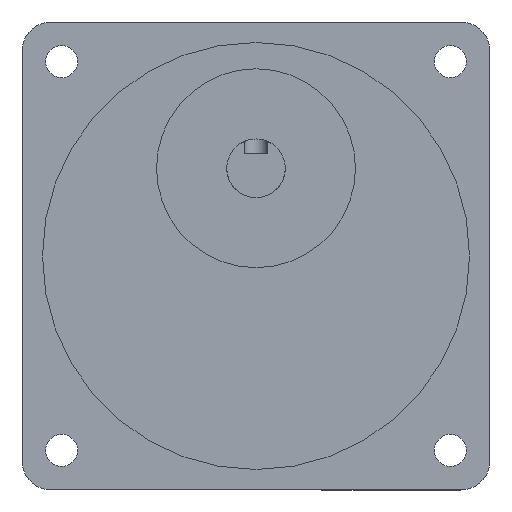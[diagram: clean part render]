
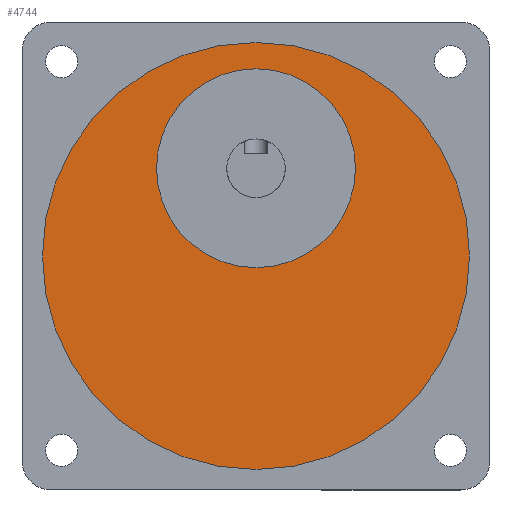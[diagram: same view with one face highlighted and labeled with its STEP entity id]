
A CAD part, front view. The second image highlights one B-rep face of the part: STEP entity #4744.
In plain terms, the highlighted planar face has unit normal (0, -1, 0).
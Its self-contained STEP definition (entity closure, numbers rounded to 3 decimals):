
#17 = CARTESIAN_POINT ( 'NONE',  ( 40., -30., 40. ) ) ;
#79 = EDGE_CURVE ( 'NONE', #4574, #2691, #4335, .T. ) ;
#101 = DIRECTION ( 'NONE',  ( 0., -1., 0. ) ) ;
#107 = CARTESIAN_POINT ( 'NONE',  ( 40., -30., 3.5 ) ) ;
#273 = CIRCLE ( 'NONE', #2372, 17. ) ;
#534 = DIRECTION ( 'NONE',  ( 0., -1., 0. ) ) ;
#588 = AXIS2_PLACEMENT_3D ( 'NONE', #17, #1528, #773 ) ;
#708 = ORIENTED_EDGE ( 'NONE', *, *, #79, .T. ) ;
#773 = DIRECTION ( 'NONE',  ( 0., 0., -1. ) ) ;
#936 = EDGE_LOOP ( 'NONE', ( #1490, #708 ) ) ;
#1184 = DIRECTION ( 'NONE',  ( 0., 0., -1. ) ) ;
#1237 = DIRECTION ( 'NONE',  ( 0., -1., 0. ) ) ;
#1490 = ORIENTED_EDGE ( 'NONE', *, *, #4217, .T. ) ;
#1499 = FACE_BOUND ( 'NONE', #2097, .T. ) ;
#1502 = AXIS2_PLACEMENT_3D ( 'NONE', #2389, #534, #3562 ) ;
#1528 = DIRECTION ( 'NONE',  ( 0., -1., 0. ) ) ;
#1778 = VERTEX_POINT ( 'NONE', #1950 ) ;
#1810 = CARTESIAN_POINT ( 'NONE',  ( 40., -30., 40. ) ) ;
#1849 = CIRCLE ( 'NONE', #4635, 17. ) ;
#1950 = CARTESIAN_POINT ( 'NONE',  ( 40., -30., 72. ) ) ;
#2097 = EDGE_LOOP ( 'NONE', ( #4604, #4764 ) ) ;
#2372 = AXIS2_PLACEMENT_3D ( 'NONE', #3870, #101, #3437 ) ;
#2389 = CARTESIAN_POINT ( 'NONE',  ( 40., -30., 40. ) ) ;
#2479 = CARTESIAN_POINT ( 'NONE',  ( 40., -30., 76.5 ) ) ;
#2691 = VERTEX_POINT ( 'NONE', #107 ) ;
#2818 = VERTEX_POINT ( 'NONE', #4285 ) ;
#2987 = DIRECTION ( 'NONE',  ( 0., -1., 0. ) ) ;
#3317 = PLANE ( 'NONE',  #4087 ) ;
#3335 = EDGE_CURVE ( 'NONE', #1778, #2818, #273, .T. ) ;
#3356 = EDGE_CURVE ( 'NONE', #2818, #1778, #1849, .T. ) ;
#3423 = CARTESIAN_POINT ( 'NONE',  ( 40., -30., 55. ) ) ;
#3430 = CIRCLE ( 'NONE', #588, 36.5 ) ;
#3437 = DIRECTION ( 'NONE',  ( 0., 0., -1. ) ) ;
#3562 = DIRECTION ( 'NONE',  ( 0., 0., -1. ) ) ;
#3686 = DIRECTION ( 'NONE',  ( 0., 0., -1. ) ) ;
#3870 = CARTESIAN_POINT ( 'NONE',  ( 40., -30., 55. ) ) ;
#4016 = FACE_OUTER_BOUND ( 'NONE', #936, .T. ) ;
#4087 = AXIS2_PLACEMENT_3D ( 'NONE', #1810, #2987, #3686 ) ;
#4217 = EDGE_CURVE ( 'NONE', #2691, #4574, #3430, .T. ) ;
#4285 = CARTESIAN_POINT ( 'NONE',  ( 40., -30., 38. ) ) ;
#4335 = CIRCLE ( 'NONE', #1502, 36.5 ) ;
#4574 = VERTEX_POINT ( 'NONE', #2479 ) ;
#4604 = ORIENTED_EDGE ( 'NONE', *, *, #3335, .F. ) ;
#4635 = AXIS2_PLACEMENT_3D ( 'NONE', #3423, #1237, #1184 ) ;
#4744 = ADVANCED_FACE ( 'NONE', ( #1499, #4016 ), #3317, .T. ) ;
#4764 = ORIENTED_EDGE ( 'NONE', *, *, #3356, .F. ) ;
